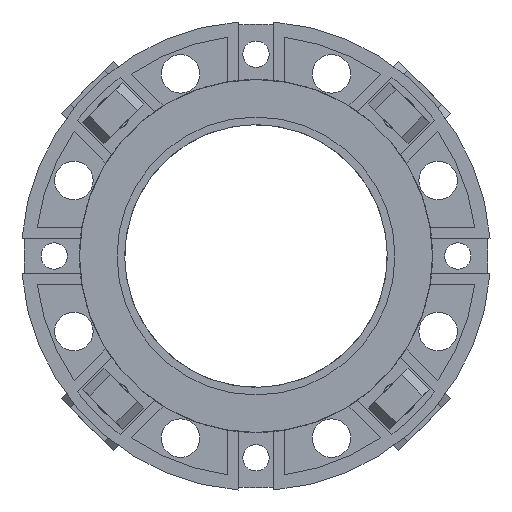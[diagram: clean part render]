
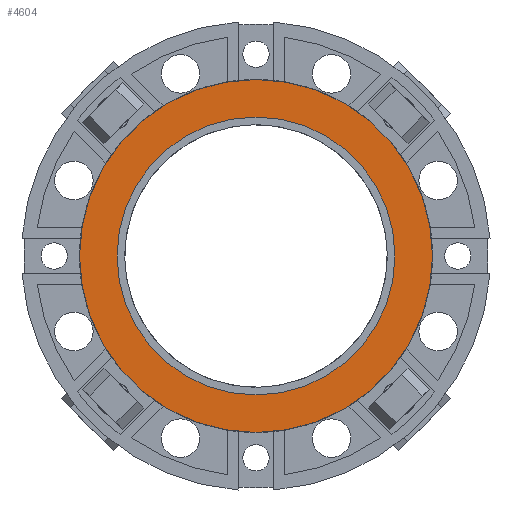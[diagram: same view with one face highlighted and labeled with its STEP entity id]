
A CAD part, front view. The second image highlights one B-rep face of the part: STEP entity #4604.
In plain terms, the highlighted planar face has unit normal (0, -1, 0).
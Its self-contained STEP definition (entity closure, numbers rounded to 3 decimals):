
#120 = VERTEX_POINT ( 'NONE', #4395 ) ;
#460 = CARTESIAN_POINT ( 'NONE',  ( 0., -3., 0. ) ) ;
#1221 = VERTEX_POINT ( 'NONE', #10450 ) ;
#1275 = EDGE_CURVE ( 'Defeatured_0_228+Defeatured_0_373+Defeatured_0_373+Defeatured_0_373', #6920, #6716, #4770, .T. ) ;
#1776 = CARTESIAN_POINT ( 'NONE',  ( 0., -3., 74. ) ) ;
#2461 = AXIS2_PLACEMENT_3D ( 'NONE', #6559, #7861, #10097 ) ;
#3970 = DIRECTION ( 'NONE',  ( 0., 0., 1. ) ) ;
#4151 = DIRECTION ( 'NONE',  ( 0., 0., 1. ) ) ;
#4395 = CARTESIAN_POINT ( 'NONE',  ( 0., -3., -94. ) ) ;
#4429 = ORIENTED_EDGE ( 'NONE', *, *, #1275, .T. ) ;
#4568 = CIRCLE ( 'NONE', #4579, 74. ) ;
#4579 = AXIS2_PLACEMENT_3D ( 'NONE', #8979, #6838, #4151 ) ;
#4604 = ADVANCED_FACE ( 'Defeatured_0_228', ( #8089, #5415 ), #12715, .F. ) ;
#4770 = CIRCLE ( 'NONE', #6730, 74. ) ;
#4838 = CARTESIAN_POINT ( 'NONE',  ( 0., -3., 0. ) ) ;
#4956 = ORIENTED_EDGE ( 'NONE', *, *, #14368, .F. ) ;
#5415 = FACE_OUTER_BOUND ( 'NONE', #6668, .T. ) ;
#6559 = CARTESIAN_POINT ( 'NONE',  ( 0., -3., 0. ) ) ;
#6668 = EDGE_LOOP ( 'NONE', ( #4956, #8067 ) ) ;
#6716 = VERTEX_POINT ( 'NONE', #13848 ) ;
#6730 = AXIS2_PLACEMENT_3D ( 'NONE', #4838, #9591, #11679 ) ;
#6838 = DIRECTION ( 'NONE',  ( 0., 1., 0. ) ) ;
#6920 = VERTEX_POINT ( 'NONE', #1776 ) ;
#7283 = EDGE_CURVE ( 'Defeatured_0_229+Defeatured_0_228+Defeatured_0_228+Defeatured_0_228', #1221, #120, #8060, .T. ) ;
#7861 = DIRECTION ( 'NONE',  ( 0., 1., 0. ) ) ;
#8060 = CIRCLE ( 'NONE', #11243, 94. ) ;
#8067 = ORIENTED_EDGE ( 'NONE', *, *, #7283, .F. ) ;
#8089 = FACE_BOUND ( 'NONE', #13849, .T. ) ;
#8371 = CARTESIAN_POINT ( 'NONE',  ( 0., -3., 0. ) ) ;
#8979 = CARTESIAN_POINT ( 'NONE',  ( 0., -3., 0. ) ) ;
#9448 = DIRECTION ( 'NONE',  ( 0., 1., 0. ) ) ;
#9591 = DIRECTION ( 'NONE',  ( 0., 1., 0. ) ) ;
#10097 = DIRECTION ( 'NONE',  ( 0., 0., 1. ) ) ;
#10450 = CARTESIAN_POINT ( 'NONE',  ( 0., -3., 94. ) ) ;
#11029 = DIRECTION ( 'NONE',  ( 0., 1., 0. ) ) ;
#11243 = AXIS2_PLACEMENT_3D ( 'NONE', #460, #11029, #3970 ) ;
#11679 = DIRECTION ( 'NONE',  ( 0., 0., 1. ) ) ;
#11692 = DIRECTION ( 'NONE',  ( 0., 0., 1. ) ) ;
#12057 = EDGE_CURVE ( 'Defeatured_0_228+Defeatured_0_373+Defeatured_0_373+Defeatured_0_373', #6716, #6920, #4568, .T. ) ;
#12715 = PLANE ( 'NONE',  #2461 ) ;
#13560 = CIRCLE ( 'NONE', #14800, 94. ) ;
#13848 = CARTESIAN_POINT ( 'NONE',  ( 0., -3., -74. ) ) ;
#13849 = EDGE_LOOP ( 'NONE', ( #14266, #4429 ) ) ;
#14266 = ORIENTED_EDGE ( 'NONE', *, *, #12057, .T. ) ;
#14368 = EDGE_CURVE ( 'Defeatured_0_229+Defeatured_0_228+Defeatured_0_228+Defeatured_0_228', #120, #1221, #13560, .T. ) ;
#14800 = AXIS2_PLACEMENT_3D ( 'NONE', #8371, #9448, #11692 ) ;
